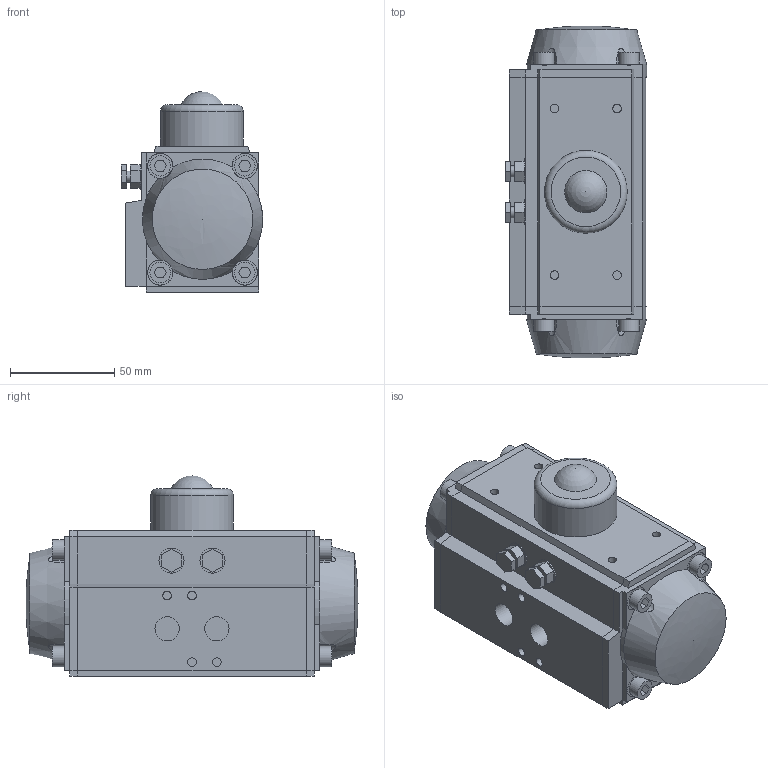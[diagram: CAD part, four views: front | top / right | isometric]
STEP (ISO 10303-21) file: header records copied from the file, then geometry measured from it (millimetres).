
FILE_DESCRIPTION((' '),'2;1');
FILE_NAME('N:\Technical Support\Private\Jomar Valve CAD\Actuation\JV\JV-50FusionCopy.stp','2017-05-26T09:39:34',(' '),(' '),' ','ACIS',' ');
FILE_SCHEMA(('CONFIG_CONTROL_DESIGN'));
Length unit declared in the file: inch
Products named in the file (22): N:\Technical Support\Private\Jomar Valve CAD\Actuation\JV\JV-50FusionCopy.stp; Body1; Body2; Body3; Body4; Body5; Body6; Body7; Body8; Body9; Body10; Body11; Body12; Body13; Body14; Body15; Body16; Body17; Body18; Body19; Body20; Body21
Assembly tree (21 placements, depth 2):
  N:\Technical Support\Private\Jomar Valve CAD\Actuation\JV\JV-50FusionCopy.stp
    Body1
    Body2
    Body3
    Body4
    Body5
    Body6
    Body7
    Body8
    Body9
    Body10
    Body11
    Body12
    Body13
    Body14
    Body15
    Body16
    Body17
    Body18
    Body19
    Body20
    Body21
Bounding box: 67.88 x 159.51 x 96.35 mm (x, y, z)
Volume: 618313.2 mm3; surface area: 83681 mm2
Topology: 21 solids, 21 shells, 291 faces, 656 edges, 436 vertices
Faces by surface type: plane 146, bspline 111, cylinder 31, cone 1, torus 1, sphere 1
Full cylindrical faces by diameter (mm): 4.064 x4, 5 x2, 5.207 x1, 5.334 x1, 6 x2, 9.83 x4, 11.684 x2, 12.065 x5, 13.97 x1, 21.336 x1, 24.765 x1, 24.8 x1, 39.751 x1
Entity records: 11224 total; most frequent: CARTESIAN_POINT 2163, ORIENTED_EDGE 1158, DIRECTION 1142, EDGE_CURVE 579, VECTOR 446, LINE 446, VERTEX_POINT 409, EDGE_LOOP 370
